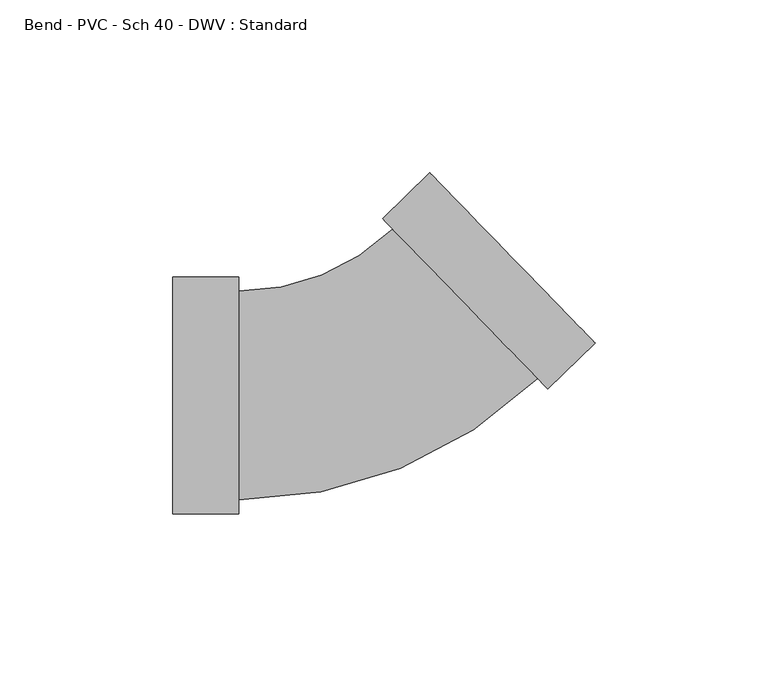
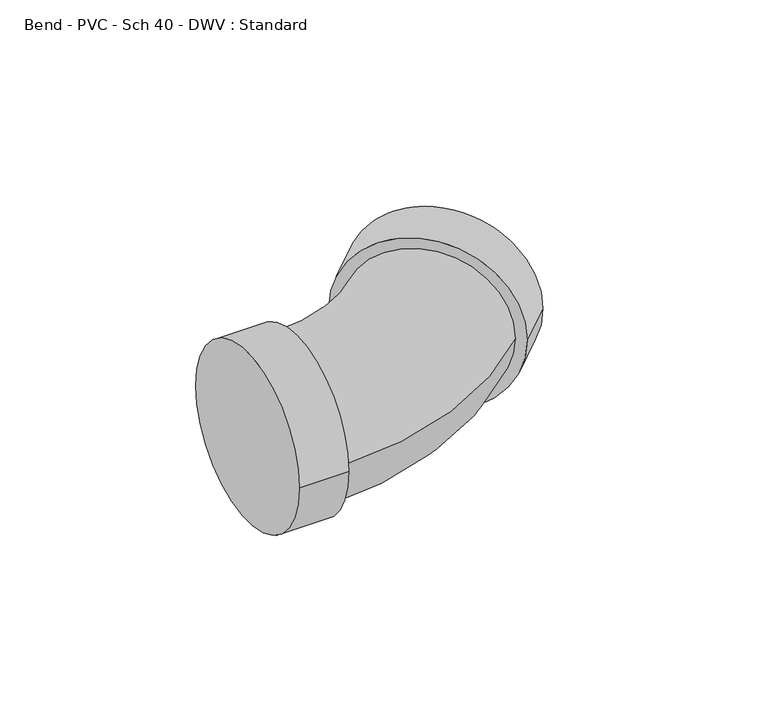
"""IFC4 building model written with IfcOpenShell, lengths in millimetres: pipe fitting geometry, Bend - PVC - Sch 40 - DWV : Standard."""

from ifc_helpers import new_model, si_unit, point, frame, origin, place, context, project, spatial, circle_curve, ellipse_curve, trimmed, source, transform, mapped, element, save
from ifc_brep_helpers import plane_surface, cylinder_surface, revolved_surface, advanced_brep


def bend_pvc_sch_40_dwv_standard_d7a8bfe4(model_context):
    return source(origin(), model_context, "Body", "AdvancedBrep", [
        advanced_brep(
        [(-57.15, -34.3154, 0.0), (-57.15, 34.3154, 0.0), (-38.1, -34.3154, 0.0), (-38.1, 34.3154, 0.0), (-38.1, -30.1625, 0.0), (-38.1, 30.1625, 0.0), (6.340322, 48.1786957, 0.0), (48.348068, 4.8837203, 0.0), (51.2399697, 1.9032031, 0.0), (3.4484203, 51.159213, 0.0), (64.9120672, 15.1688071, 0.0), (17.1205178, 64.424817, 0.0)],
        [
            (0, 1, circle_curve(frame((-57.15, 0.0, 0.0), z_axis=(-1.0, 0.0, 0.0), x_axis=(0.0, 1.0, 0.0)), 34.3154)),
            (1, 0, circle_curve(frame((-57.15, 0.0, 0.0), z_axis=(-1.0, 0.0, 0.0), x_axis=(0.0, 1.0, 0.0)), 34.3154)),
            (2, 3, circle_curve(frame((-38.1, 0.0, 0.0), z_axis=(1.0, 0.0, 0.0), x_axis=(0.0, 1.0, 0.0)), 34.3154)),
            (3, 2, circle_curve(frame((-38.1, 0.0, 0.0), z_axis=(1.0, 0.0, 0.0), x_axis=(0.0, 1.0, 0.0)), 34.3154)),
            (4, 5, circle_curve(frame((-38.1, 0.0, 0.0), z_axis=(-1.0, 0.0, 0.0), x_axis=(0.0, 1.0, 0.0)), 30.1625)),
            (5, 4, circle_curve(frame((-38.1, 0.0, 0.0), z_axis=(-1.0, 0.0, 0.0), x_axis=(0.0, 1.0, 0.0)), 30.1625)),
            (0, 2),
            (3, 1),
            (6, 5, circle_curve(frame((-38.1, 93.9807877, 0.0), z_axis=(0.0, 0.0, -1.0), x_axis=(0.0, -1.0, 0.0)), 63.8182877)),
            (4, 7, circle_curve(frame((-38.1, 93.9807877, 0.0), z_axis=(0.0, 0.0, 1.0), x_axis=(0.0, -1.0, 0.0)), 124.1432877)),
            (7, 6, circle_curve(frame((27.344195, 26.531208, 0.0), z_axis=(-0.7176954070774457, -0.6963571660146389, 0.0), x_axis=(-0.6963571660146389, 0.7176954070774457, 0.0)), 30.1625)),
            (6, 7, circle_curve(frame((27.344195, 26.531208, 0.0), z_axis=(-0.7176954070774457, -0.6963571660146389, 0.0), x_axis=(-0.6963571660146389, 0.7176954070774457, 0.0)), 30.1625)),
            (8, 9, circle_curve(frame((27.344195, 26.531208, 0.0), z_axis=(-0.7176954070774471, -0.6963571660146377, 0.0), x_axis=(-0.6963571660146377, 0.7176954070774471, 0.0)), 34.3154)),
            (9, 8, circle_curve(frame((27.344195, 26.531208, 0.0), z_axis=(-0.7176954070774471, -0.6963571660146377, 0.0), x_axis=(-0.6963571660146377, 0.7176954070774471, 0.0)), 34.3154)),
            (10, 11, circle_curve(frame((41.0162925, 39.796812, 0.0), z_axis=(0.7176954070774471, 0.6963571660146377, 0.0), x_axis=(-0.6963571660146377, 0.7176954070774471, 0.0)), 34.3154)),
            (11, 10, circle_curve(frame((41.0162925, 39.796812, 0.0), z_axis=(0.7176954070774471, 0.6963571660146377, 0.0), x_axis=(-0.6963571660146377, 0.7176954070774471, 0.0)), 34.3154)),
            (8, 10),
            (11, 9),
        ],
        [
            plane_surface(frame((-57.15, 0.0, 0.0), z_axis=(-1.0, 0.0, 0.0), x_axis=(0.0, 0.0, 1.0))),
            plane_surface(frame((-38.1, 0.0, 0.0), z_axis=(1.0, 0.0, 0.0), x_axis=(0.0, 0.0, 1.0))),
            cylinder_surface(frame((-57.15, 0.0, 0.0), z_axis=(-1.0, 0.0, 0.0), x_axis=(0.0, 1.0, 0.0)), 34.3154),
            revolved_surface(trimmed(ellipse_curve(frame((-38.1, 0.0, 0.0), z_axis=(-1.0, 0.0, 0.0), x_axis=(0.0, 1.0, 0.0)), 30.1625, 30.1625), [point((-38.1, -30.1625, 0.0))], [point((-38.1, 30.1625, 0.0))], True, "CARTESIAN"), (-38.1, 93.9807877, 0.0), (0.0, 0.0, 1.0)),
            revolved_surface(trimmed(ellipse_curve(frame((-38.1, 0.0, 0.0), z_axis=(-1.0, 0.0, 0.0), x_axis=(0.0, 1.0, 0.0)), 30.1625, 30.1625), [point((-38.1, 30.1625, 0.0))], [point((-38.1, -30.1625, 0.0))], True, "CARTESIAN"), (-38.1, 93.9807877, 0.0), (0.0, 0.0, 1.0)),
            plane_surface(frame((27.344195, 26.531208, 0.0), z_axis=(-0.7176954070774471, -0.6963571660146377, 0.0), x_axis=(0.0, 0.0, 1.0))),
            plane_surface(frame((41.0162925, 39.796812, 0.0), z_axis=(0.7176954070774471, 0.6963571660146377, 0.0), x_axis=(0.0, 0.0, 1.0))),
            cylinder_surface(frame((27.344195, 26.531208, 0.0), z_axis=(-0.7176954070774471, -0.6963571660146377, 0.0), x_axis=(-0.6963571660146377, 0.7176954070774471, 0.0)), 34.3154),
        ],
        [
            (0, [[1, 2]]),
            (1, [[3, 4], [5, 6]]),
            (2, [[-1, 7, -4, 8]]),
            (2, [[-2, -8, -3, -7]]),
            (3, [[9, -5, 10, 11]]),
            (4, [[-9, 12, -10, -6]]),
            (5, [[13, 14], [-11, -12]]),
            (6, [[15, 16]]),
            (7, [[-13, 17, -16, 18]]),
            (7, [[-14, -18, -15, -17]]),
        ],
    ),
    ])


if __name__ == "__main__":
    model = new_model("IFC4")
    model_context = context("Model", 3, world=origin())
    ifc_project = project(units=[si_unit("LENGTHUNIT", "METRE", prefix="MILLI")], contexts=[model_context])
    site = spatial("IfcSite", under=ifc_project)
    building = spatial("IfcBuilding", under=site)
    placement = place(None, origin())
    bend_pvc_sch_40_dwv_standard_shape = bend_pvc_sch_40_dwv_standard_d7a8bfe4(model_context)
    element("IfcPipeFitting", 1, ObjectType="Bend - PVC - Sch 40 - DWV : Standard", at=placement, inside=building, context=model_context, shape_type="MappedRepresentation", body=[
        mapped(bend_pvc_sch_40_dwv_standard_shape, transform((0.0, 0.0, 0.0), x_axis=(1.0, 0.0, 0.0), y_axis=(0.0, 1.0, 0.0), z_axis=(0.0, 0.0, 1.0))),
    ])
    save(model, "model.ifc")
